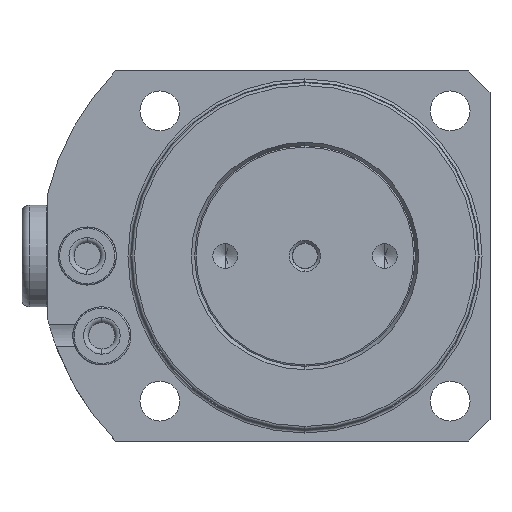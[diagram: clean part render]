
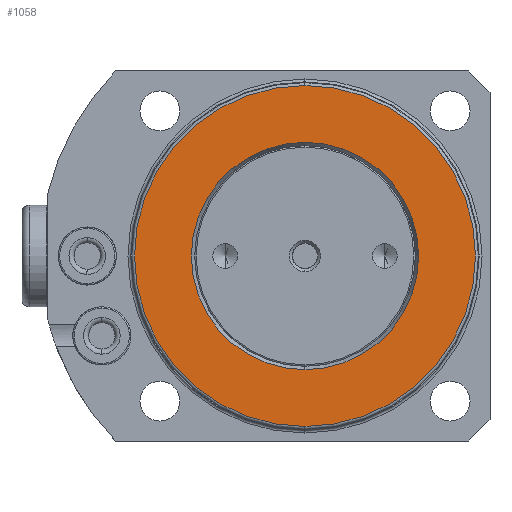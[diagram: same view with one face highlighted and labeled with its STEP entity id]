
A CAD part, front view. The second image highlights one B-rep face of the part: STEP entity #1058.
In plain terms, the highlighted planar face has unit normal (0, -1, 0).
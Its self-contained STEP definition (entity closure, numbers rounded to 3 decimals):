
#391=PLANE('',#4231);
#445=FACE_BOUND('',#1567,.T.);
#446=FACE_BOUND('',#1568,.T.);
#1058=ADVANCED_FACE('',(#445,#446),#391,.T.);
#1567=EDGE_LOOP('',(#2436,#2437));
#1568=EDGE_LOOP('',(#2438,#2439));
#2436=ORIENTED_EDGE('',*,*,#3368,.T.);
#2437=ORIENTED_EDGE('',*,*,#3443,.T.);
#2438=ORIENTED_EDGE('',*,*,#3363,.F.);
#2439=ORIENTED_EDGE('',*,*,#3444,.F.);
#2926=VERTEX_POINT('',#6691);
#2927=VERTEX_POINT('',#6692);
#2930=VERTEX_POINT('',#6700);
#2931=VERTEX_POINT('',#6702);
#3363=EDGE_CURVE('',#2926,#2927,#3708,.T.);
#3368=EDGE_CURVE('',#2931,#2930,#3712,.T.);
#3443=EDGE_CURVE('',#2930,#2931,#3749,.T.);
#3444=EDGE_CURVE('',#2927,#2926,#3750,.T.);
#3708=CIRCLE('',#4167,23.5);
#3712=CIRCLE('',#4172,15.662);
#3749=CIRCLE('',#4228,15.662);
#3750=CIRCLE('',#4230,23.5);
#4167=AXIS2_PLACEMENT_3D('',#6690,#5230,#5231);
#4172=AXIS2_PLACEMENT_3D('',#6701,#5241,#5242);
#4228=AXIS2_PLACEMENT_3D('',#6906,#5376,#5377);
#4230=AXIS2_PLACEMENT_3D('',#6908,#5380,#5381);
#4231=AXIS2_PLACEMENT_3D('',#6909,#5382,#5383);
#5230=DIRECTION('',(0.,1.,0.));
#5231=DIRECTION('',(0.,0.,1.));
#5241=DIRECTION('',(0.,1.,0.));
#5242=DIRECTION('',(0.,0.,1.));
#5376=DIRECTION('',(0.,1.,0.));
#5377=DIRECTION('',(0.,0.,1.));
#5380=DIRECTION('',(0.,1.,0.));
#5381=DIRECTION('',(0.,0.,1.));
#5382=DIRECTION('',(0.,-1.,0.));
#5383=DIRECTION('',(0.,0.,1.));
#6690=CARTESIAN_POINT('',(0.,0.255,0.));
#6691=CARTESIAN_POINT('',(0.,0.255,23.5));
#6692=CARTESIAN_POINT('',(0.,0.255,-23.5));
#6700=CARTESIAN_POINT('',(0.,0.255,15.662));
#6701=CARTESIAN_POINT('',(0.,0.255,0.));
#6702=CARTESIAN_POINT('',(0.,0.255,-15.662));
#6906=CARTESIAN_POINT('',(0.,0.255,0.));
#6908=CARTESIAN_POINT('',(0.,0.255,0.));
#6909=CARTESIAN_POINT('',(0.,0.255,0.));
